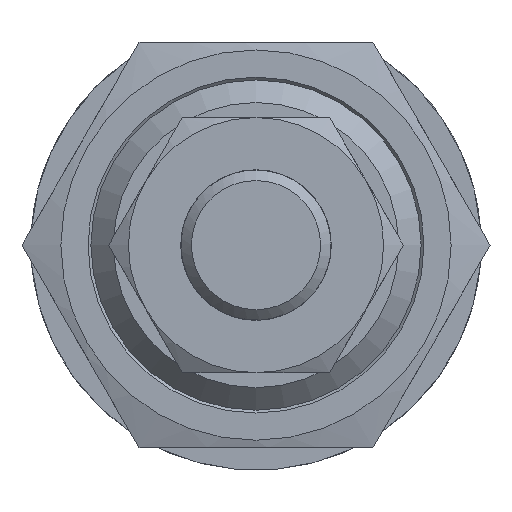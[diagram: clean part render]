
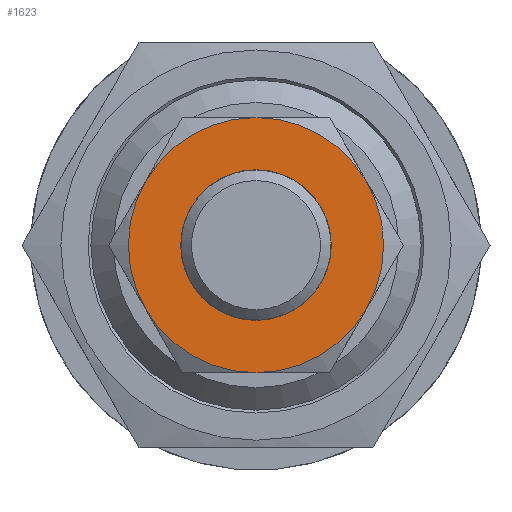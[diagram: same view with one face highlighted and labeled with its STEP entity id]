
A CAD part, front view. The second image highlights one B-rep face of the part: STEP entity #1623.
In plain terms, the highlighted planar face has unit normal (0, -1, 0) as drawn and (1, 0, 0) by its records, which use the part's own axes.
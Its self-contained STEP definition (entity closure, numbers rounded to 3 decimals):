
#303=PLANE('',#2619);
#653=ORIENTED_EDGE('',*,*,#888,.T.);
#654=ORIENTED_EDGE('',*,*,#886,.T.);
#655=ORIENTED_EDGE('',*,*,#883,.T.);
#656=ORIENTED_EDGE('',*,*,#882,.T.);
#657=ORIENTED_EDGE('',*,*,#884,.T.);
#658=ORIENTED_EDGE('',*,*,#885,.T.);
#659=ORIENTED_EDGE('',*,*,#887,.T.);
#882=EDGE_CURVE('',#1034,#1041,#1142,.T.);
#883=EDGE_CURVE('',#1031,#1034,#1143,.T.);
#884=EDGE_CURVE('',#1041,#1039,#1144,.T.);
#885=EDGE_CURVE('',#1039,#1036,#1145,.T.);
#886=EDGE_CURVE('',#1026,#1031,#1146,.T.);
#887=EDGE_CURVE('',#1036,#1026,#1147,.T.);
#888=EDGE_CURVE('',#1042,#1042,#1148,.F.);
#1026=VERTEX_POINT('',#3510);
#1031=VERTEX_POINT('',#3530);
#1034=VERTEX_POINT('',#3547);
#1036=VERTEX_POINT('',#3565);
#1039=VERTEX_POINT('',#3582);
#1041=VERTEX_POINT('',#3598);
#1042=VERTEX_POINT('',#3622);
#1142=CIRCLE('',#2602,8.5);
#1143=CIRCLE('',#2604,8.5);
#1144=CIRCLE('',#2606,8.5);
#1145=CIRCLE('',#2608,8.5);
#1146=CIRCLE('',#2610,8.5);
#1147=CIRCLE('',#2612,8.5);
#1148=CIRCLE('',#2620,5.016);
#1299=EDGE_LOOP('',(#653));
#1300=EDGE_LOOP('',(#654,#655,#656,#657,#658,#659));
#1470=FACE_BOUND('',#1299,.T.);
#1471=FACE_BOUND('',#1300,.T.);
#1623=ADVANCED_FACE('',(#1470,#1471),#303,.T.);
#2602=AXIS2_PLACEMENT_3D('',#3603,#3043,#3044);
#2604=AXIS2_PLACEMENT_3D('',#3605,#3047,#3048);
#2606=AXIS2_PLACEMENT_3D('',#3607,#3051,#3052);
#2608=AXIS2_PLACEMENT_3D('',#3609,#3055,#3056);
#2610=AXIS2_PLACEMENT_3D('',#3611,#3059,#3060);
#2612=AXIS2_PLACEMENT_3D('',#3613,#3063,#3064);
#2619=AXIS2_PLACEMENT_3D('',#3620,#3077,#3078);
#2620=AXIS2_PLACEMENT_3D('',#3621,#3079,#3080);
#3043=DIRECTION('',(1.,0.,0.));
#3044=DIRECTION('',(0.,1.,0.));
#3047=DIRECTION('',(1.,0.,0.));
#3048=DIRECTION('',(0.,1.,0.));
#3051=DIRECTION('',(1.,0.,0.));
#3052=DIRECTION('',(0.,1.,0.));
#3055=DIRECTION('',(1.,0.,0.));
#3056=DIRECTION('',(0.,1.,0.));
#3059=DIRECTION('',(1.,0.,0.));
#3060=DIRECTION('',(0.,1.,0.));
#3063=DIRECTION('',(1.,0.,0.));
#3064=DIRECTION('',(0.,1.,0.));
#3077=DIRECTION('',(1.,0.,0.));
#3078=DIRECTION('',(0.,0.,-1.));
#3079=DIRECTION('',(1.,0.,0.));
#3080=DIRECTION('',(0.,0.,-1.));
#3510=CARTESIAN_POINT('',(6.,-7.361,-4.25));
#3530=CARTESIAN_POINT('',(6.,0.,-8.5));
#3547=CARTESIAN_POINT('',(6.,7.361,-4.25));
#3565=CARTESIAN_POINT('',(6.,-7.361,4.25));
#3582=CARTESIAN_POINT('',(6.,0.,8.5));
#3598=CARTESIAN_POINT('',(6.,7.361,4.25));
#3603=CARTESIAN_POINT('',(6.,0.,0.));
#3605=CARTESIAN_POINT('',(6.,0.,0.));
#3607=CARTESIAN_POINT('',(6.,0.,0.));
#3609=CARTESIAN_POINT('',(6.,0.,0.));
#3611=CARTESIAN_POINT('',(6.,0.,0.));
#3613=CARTESIAN_POINT('',(6.,0.,0.));
#3620=CARTESIAN_POINT('',(6.,0.,0.));
#3621=CARTESIAN_POINT('',(6.,0.,0.));
#3622=CARTESIAN_POINT('',(6.,0.,-5.016));
